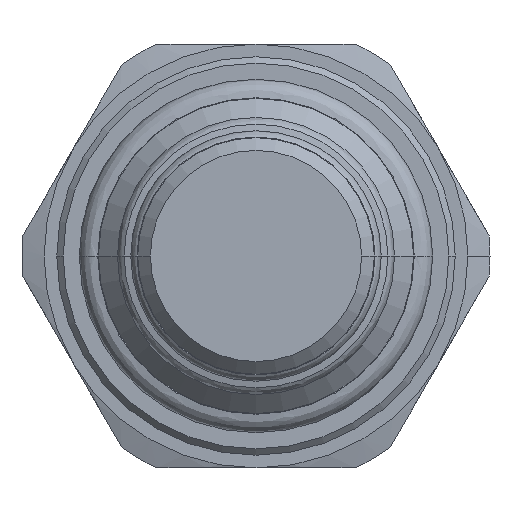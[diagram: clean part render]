
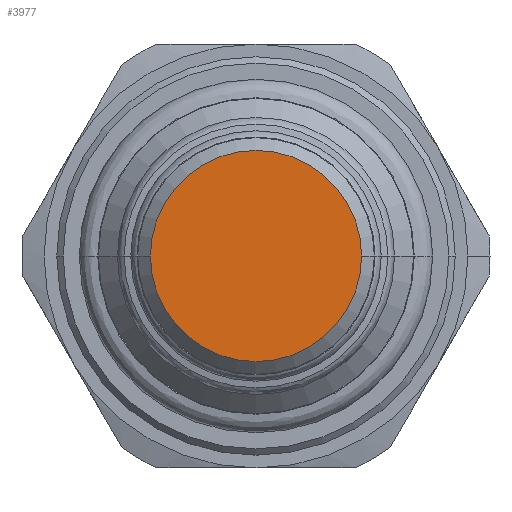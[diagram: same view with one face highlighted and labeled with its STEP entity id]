
A CAD part, front view. The second image highlights one B-rep face of the part: STEP entity #3977.
In plain terms, the highlighted planar face has unit normal (0, -1, 0).
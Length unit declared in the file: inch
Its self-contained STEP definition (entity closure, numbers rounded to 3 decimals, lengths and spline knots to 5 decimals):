
#1590=CARTESIAN_POINT('',(0.,-1.599,0.));
#1591=DIRECTION('',(0.,1.,0.));
#1592=DIRECTION('',(-1.,0.,0.));
#1593=AXIS2_PLACEMENT_3D('',#1590,#1591,#1592);
#1608=CARTESIAN_POINT('',(0.,-1.599,0.));
#1609=DIRECTION('',(0.,1.,0.));
#1610=DIRECTION('',(1.,0.,0.));
#1611=AXIS2_PLACEMENT_3D('',#1608,#1609,#1610);
#1707=CARTESIAN_POINT('',(0.249,-1.599,0.));
#1708=CARTESIAN_POINT('',(-0.249,-1.599,0.));
#1709=VERTEX_POINT('',#1707);
#1710=VERTEX_POINT('',#1708);
#3967=CARTESIAN_POINT('',(0.,-1.599,0.));
#3968=DIRECTION('',(0.,-1.,0.));
#3969=DIRECTION('',(0.,0.,-1.));
#3970=AXIS2_PLACEMENT_3D('',#3967,#3968,#3969);
#3971=PLANE('',#3970);
#3973=ORIENTED_EDGE('',*,*,#3972,.T.);
#3974=ORIENTED_EDGE('',*,*,#3957,.T.);
#3975=EDGE_LOOP('',(#3973,#3974));
#3976=FACE_OUTER_BOUND('',#3975,.F.);
#3977=ADVANCED_FACE('',(#3976),#3971,.T.);
#1594=CIRCLE('',#1593,0.249);
#1612=CIRCLE('',#1611,0.249);
#3957=EDGE_CURVE('',#1710,#1709,#1594,.T.);
#3972=EDGE_CURVE('',#1709,#1710,#1612,.T.);
